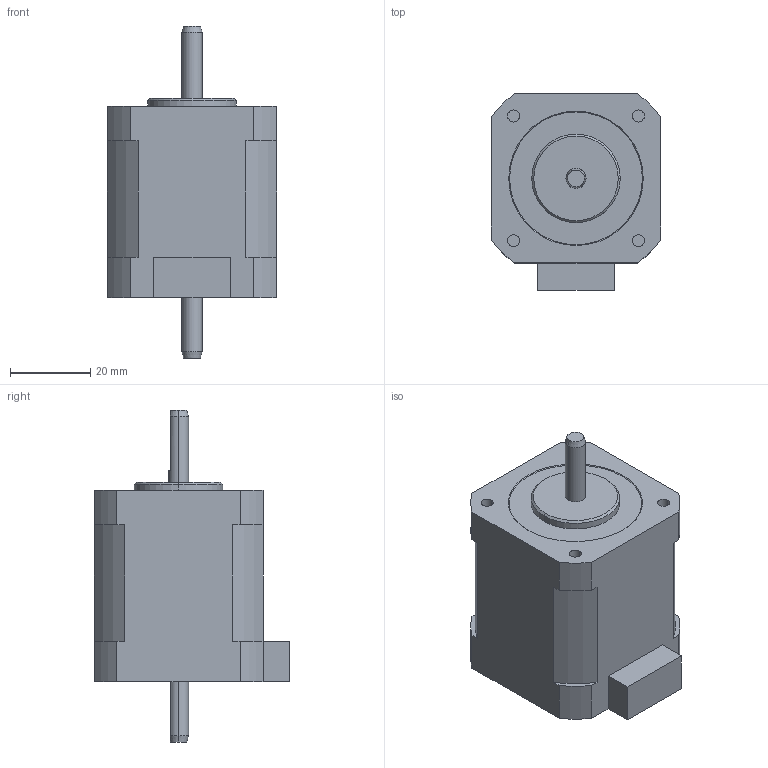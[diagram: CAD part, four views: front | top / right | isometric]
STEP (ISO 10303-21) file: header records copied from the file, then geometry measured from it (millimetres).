
FILE_DESCRIPTION (( 'STEP AP203' ), '1' );
FILE_NAME ('PMSA-U42D3D_3D.STEP', '2017-01-31T04:32:54', ( 'user01' ), ( '' ), 'SwSTEP 2.0', 'SolidWorks 2014', '' );
FILE_SCHEMA (( 'CONFIG_CONTROL_DESIGN' ));
Length unit declared in the file: millimetre
Products named in the file (1): PMSA-U42D3D_3D
Bounding box: 42 x 48.7 x 82.5 mm (x, y, z)
Volume: 82258.6 mm3; surface area: 11922.7 mm2
Topology: 1 solids, 1 shells, 66 faces, 162 edges, 106 vertices
Faces by surface type: plane 29, cylinder 27, cone 10
Entity records: 2063 total; most frequent: CARTESIAN_POINT 363, DIRECTION 360, ORIENTED_EDGE 324, EDGE_CURVE 162, AXIS2_PLACEMENT_3D 135, VERTEX_POINT 106, VECTOR 90, LINE 90
